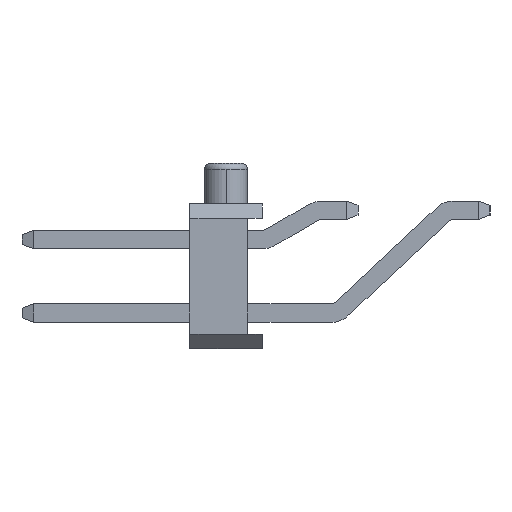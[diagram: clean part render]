
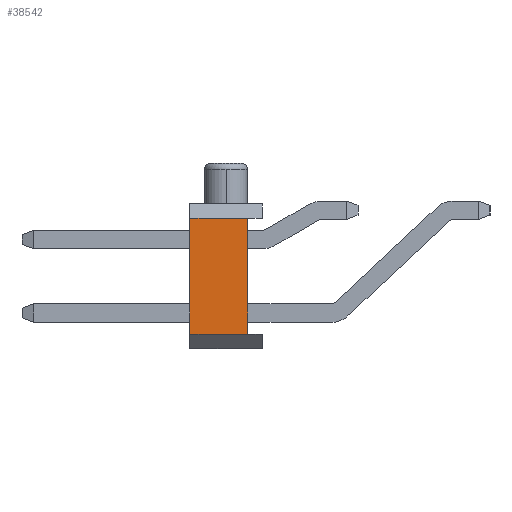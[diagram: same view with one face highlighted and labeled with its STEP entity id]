
A CAD part, left-side view. The second image highlights one B-rep face of the part: STEP entity #38542.
In plain terms, the highlighted planar face has unit normal (-1, 0, 0).
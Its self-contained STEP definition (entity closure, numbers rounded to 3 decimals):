
#53 = VECTOR ( 'NONE', #13248, 1000. ) ;
#1430 = EDGE_LOOP ( 'NONE', ( #12068, #37243, #3737, #36161 ) ) ;
#2895 = CARTESIAN_POINT ( 'NONE',  ( -85.05, 6.9, 4.5 ) ) ;
#3737 = ORIENTED_EDGE ( 'NONE', *, *, #37829, .T. ) ;
#5383 = DIRECTION ( 'NONE',  ( 0., 1., 0. ) ) ;
#5611 = AXIS2_PLACEMENT_3D ( 'NONE', #40879, #25048, #5383 ) ;
#11945 = PLANE ( 'NONE',  #5611 ) ;
#12068 = ORIENTED_EDGE ( 'NONE', *, *, #36654, .T. ) ;
#12341 = VECTOR ( 'NONE', #32096, 1000. ) ;
#13248 = DIRECTION ( 'NONE',  ( 0., 1., 0. ) ) ;
#14089 = LINE ( 'NONE', #26982, #23821 ) ;
#16038 = CARTESIAN_POINT ( 'NONE',  ( -85.05, 8.9, 5. ) ) ;
#16349 = VECTOR ( 'NONE', #34858, 1000. ) ;
#16525 = VERTEX_POINT ( 'NONE', #23592 ) ;
#18377 = LINE ( 'NONE', #31256, #12341 ) ;
#20655 = DIRECTION ( 'NONE',  ( 0., 1., 0. ) ) ;
#21923 = EDGE_CURVE ( 'NONE', #25789, #34110, #32452, .T. ) ;
#23265 = CARTESIAN_POINT ( 'NONE',  ( -85.05, 6.9, 0.5 ) ) ;
#23592 = CARTESIAN_POINT ( 'NONE',  ( -85.05, 8.9, 0.5 ) ) ;
#23821 = VECTOR ( 'NONE', #20655, 1000. ) ;
#25048 = DIRECTION ( 'NONE',  ( -1., 0., 0. ) ) ;
#25196 = CARTESIAN_POINT ( 'NONE',  ( -85.05, 8.9, 4.5 ) ) ;
#25570 = EDGE_CURVE ( 'NONE', #34217, #16525, #14089, .T. ) ;
#25789 = VERTEX_POINT ( 'NONE', #2895 ) ;
#26982 = CARTESIAN_POINT ( 'NONE',  ( -85.05, 6.4, 0.5 ) ) ;
#29305 = CARTESIAN_POINT ( 'NONE',  ( -85.05, 6.4, 4.5 ) ) ;
#31256 = CARTESIAN_POINT ( 'NONE',  ( -85.05, 6.9, 1.5 ) ) ;
#32096 = DIRECTION ( 'NONE',  ( 0., 0., 1. ) ) ;
#32452 = LINE ( 'NONE', #29305, #53 ) ;
#34110 = VERTEX_POINT ( 'NONE', #25196 ) ;
#34217 = VERTEX_POINT ( 'NONE', #23265 ) ;
#34858 = DIRECTION ( 'NONE',  ( 0., 0., -1. ) ) ;
#34962 = FACE_OUTER_BOUND ( 'NONE', #1430, .T. ) ;
#35260 = LINE ( 'NONE', #16038, #16349 ) ;
#36161 = ORIENTED_EDGE ( 'NONE', *, *, #25570, .F. ) ;
#36654 = EDGE_CURVE ( 'NONE', #34217, #25789, #18377, .T. ) ;
#37243 = ORIENTED_EDGE ( 'NONE', *, *, #21923, .T. ) ;
#37829 = EDGE_CURVE ( 'NONE', #34110, #16525, #35260, .T. ) ;
#38542 = ADVANCED_FACE ( 'NONE', ( #34962 ), #11945, .T. ) ;
#40879 = CARTESIAN_POINT ( 'NONE',  ( -85.05, 6.4, 0.5 ) ) ;
